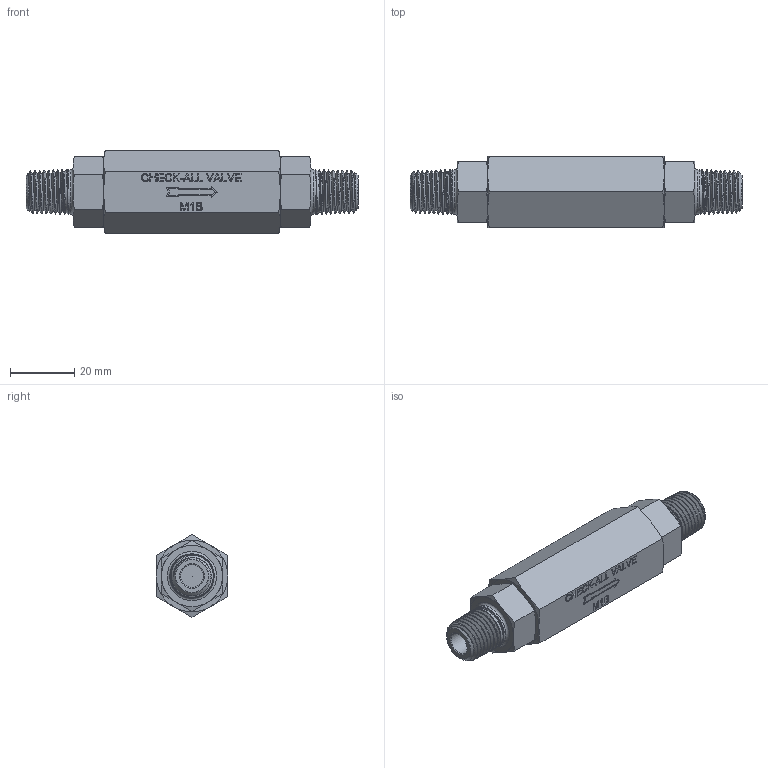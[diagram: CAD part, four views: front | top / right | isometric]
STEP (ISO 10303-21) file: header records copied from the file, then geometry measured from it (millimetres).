
FILE_DESCRIPTION( ( 'Unknown' ), '1' );
FILE_NAME( 'Y:/ENGR/3D Solid Edge Models/M(1-8)/M1/stp/M1B.stp', 'Unknown', ( 'Unknown' ), ( 'Unknown' ), 'PSStep 16.0.42', 'Unknown', ' ' );
FILE_SCHEMA( ( 'AUTOMOTIVE_DESIGN { 1 0 10303 214 1 1 1 1 }' ) );
Length unit declared in the file: millimetre
Products named in the file (1): 1
Bounding box: 103.02 x 22.23 x 25.66 mm (x, y, z)
Volume: 31148.4 mm3; surface area: 9253.9 mm2
Topology: 1 solids, 1 shells, 372 faces, 965 edges, 623 vertices
Faces by surface type: plane 193, cylinder 56, cone 43, torus 32, bspline 28, extrusion 18, revolution 2
Full cylindrical faces by diameter (mm): 7.144 x2, 13.716 x4
Entity records: 44858 total; most frequent: CARTESIAN_POINT 32314, ORIENTED_EDGE 1862, DIRECTION 1357, EDGE_CURVE 931, PRESENTATION_STYLE_ASSIGNMENT 734, COLOUR_RGB 734, VERTEX_POINT 607, VECTOR 457
